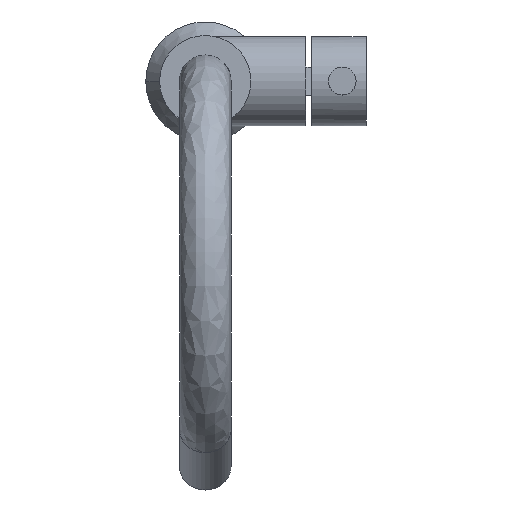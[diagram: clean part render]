
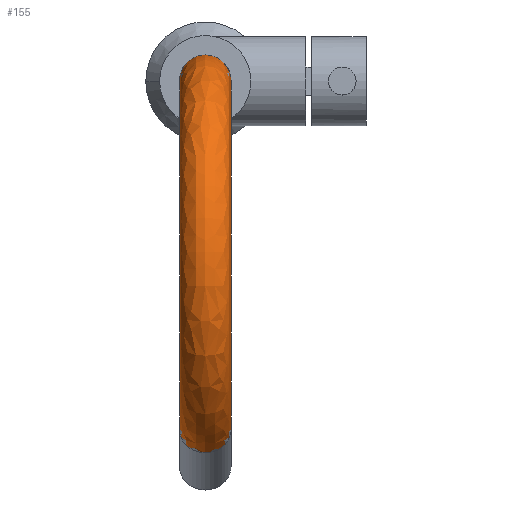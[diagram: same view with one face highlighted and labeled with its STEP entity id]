
A CAD part, top view. The second image highlights one B-rep face of the part: STEP entity #155.
In plain terms, the highlighted free-form (B-spline) face has degree [2, 2] with [5, 5] control points.
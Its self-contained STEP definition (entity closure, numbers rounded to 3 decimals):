
#111 = VERTEX_POINT('',#112);
#112 = CARTESIAN_POINT('',(13.,-175.787,
    256.758));
#118 = EDGE_CURVE('',#111,#119,#121,.T.);
#119 = VERTEX_POINT('',#120);
#120 = CARTESIAN_POINT('',(-13.,-175.787,
    256.758));
#121 = CIRCLE('',#122,13.);
#122 = AXIS2_PLACEMENT_3D('',#123,#124,#125);
#123 = CARTESIAN_POINT('',(0.,-175.787,
    256.758));
#124 = DIRECTION('',(0.,-0.423,-0.906)
  );
#125 = DIRECTION('',(-1.,0.,0.));
#155 = ADVANCED_FACE('',(#156),#184,.F.);
#156 = FACE_BOUND('',#157,.F.);
#157 = EDGE_LOOP('',(#158,#169,#176,#177));
#158 = ORIENTED_EDGE('',*,*,#159,.F.);
#159 = EDGE_CURVE('',#160,#162,#164,.T.);
#160 = VERTEX_POINT('',#161);
#161 = CARTESIAN_POINT('',(13.,0.,
    217.787));
#162 = VERTEX_POINT('',#163);
#163 = CARTESIAN_POINT('',(-13.,0.,
    217.787));
#164 = CIRCLE('',#165,13.);
#165 = AXIS2_PLACEMENT_3D('',#166,#167,#168);
#166 = CARTESIAN_POINT('',(0.,0.,
    217.787));
#167 = DIRECTION('',(0.,0.,1.));
#168 = DIRECTION('',(-1.,0.,0.));
#169 = ORIENTED_EDGE('',*,*,#170,.F.);
#170 = EDGE_CURVE('',#111,#160,#171,.T.);
#171 = CIRCLE('',#172,92.213);
#172 = AXIS2_PLACEMENT_3D('',#173,#174,#175);
#173 = CARTESIAN_POINT('',(13.,-92.213,
    217.787));
#174 = DIRECTION('',(-1.,0.,0.));
#175 = DIRECTION('',(0.,-0.906,0.423));
#176 = ORIENTED_EDGE('',*,*,#118,.T.);
#177 = ORIENTED_EDGE('',*,*,#178,.F.);
#178 = EDGE_CURVE('',#162,#119,#179,.T.);
#179 = CIRCLE('',#180,92.213);
#180 = AXIS2_PLACEMENT_3D('',#181,#182,#183);
#181 = CARTESIAN_POINT('',(-13.,-92.213,
    217.787));
#182 = DIRECTION('',(1.,0.,0.));
#183 = DIRECTION('',(0.,-0.906,0.423));
#184 = ( BOUNDED_SURFACE() B_SPLINE_SURFACE(2,2,(
    (#185,#186,#187,#188,#189)
    ,(#190,#191,#192,#193,#194)
    ,(#195,#196,#197,#198,#199)
    ,(#200,#201,#202,#203,#204)
    ,(#205,#206,#207,#208,#209
)),.UNSPECIFIED.,.F.,.F.,.F.) B_SPLINE_SURFACE_WITH_KNOTS((3,2,3),(3,2,3
    ),(3.142,4.712,6.283),(0.,1.353,
2.705),.UNSPECIFIED.) GEOMETRIC_REPRESENTATION_ITEM() 
RATIONAL_B_SPLINE_SURFACE((
    (1.,0.78,1.,0.78,1.)
    ,(0.707,0.551,0.707,0.551
      ,0.707)
    ,(1.,0.78,1.,0.78,1.)
    ,(0.707,0.551,0.707,0.551
      ,0.707)
,(1.,0.78,1.,0.78,1.
))) REPRESENTATION_ITEM('') SURFACE() );
#185 = CARTESIAN_POINT('',(13.,-175.787,
    256.758));
#186 = CARTESIAN_POINT('',(13.,-144.509,
    323.833));
#187 = CARTESIAN_POINT('',(13.,-72.255,
    307.814));
#188 = CARTESIAN_POINT('',(13.,0.,
    291.796));
#189 = CARTESIAN_POINT('',(13.,0.,
    217.787));
#190 = CARTESIAN_POINT('',(13.,-187.569,
    262.252));
#191 = CARTESIAN_POINT('',(13.,-151.882,
    338.783));
#192 = CARTESIAN_POINT('',(13.,-69.441,
    320.506));
#193 = CARTESIAN_POINT('',(13.,13.,
    302.229));
#194 = CARTESIAN_POINT('',(13.,13.,
    217.787));
#195 = CARTESIAN_POINT('',(0.,-187.569,
    262.252));
#196 = CARTESIAN_POINT('',(0.,-151.882,
    338.783));
#197 = CARTESIAN_POINT('',(0.,-69.441,
    320.506));
#198 = CARTESIAN_POINT('',(0.,13.,
    302.229));
#199 = CARTESIAN_POINT('',(0.,13.,
    217.787));
#200 = CARTESIAN_POINT('',(-13.,-187.569,
    262.252));
#201 = CARTESIAN_POINT('',(-13.,-151.882,
    338.783));
#202 = CARTESIAN_POINT('',(-13.,-69.441,
    320.506));
#203 = CARTESIAN_POINT('',(-13.,13.,
    302.229));
#204 = CARTESIAN_POINT('',(-13.,13.,
    217.787));
#205 = CARTESIAN_POINT('',(-13.,-175.787,
    256.758));
#206 = CARTESIAN_POINT('',(-13.,-144.509,
    323.833));
#207 = CARTESIAN_POINT('',(-13.,-72.255,
    307.814));
#208 = CARTESIAN_POINT('',(-13.,0.,
    291.796));
#209 = CARTESIAN_POINT('',(-13.,0.,
    217.787));
